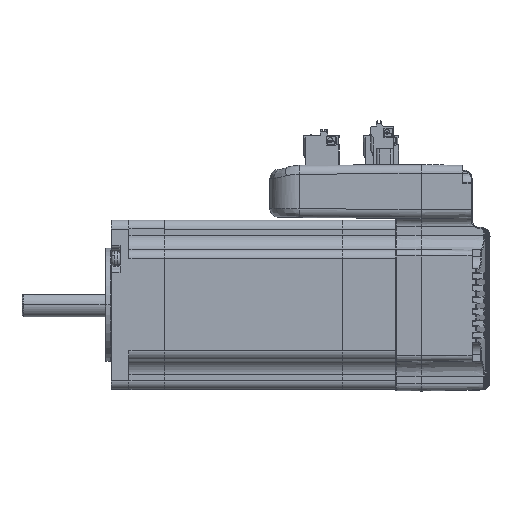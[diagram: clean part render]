
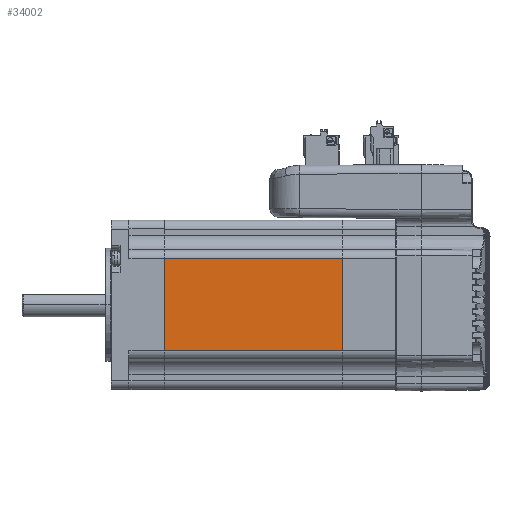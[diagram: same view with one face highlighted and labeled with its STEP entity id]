
A CAD part, left-side view. The second image highlights one B-rep face of the part: STEP entity #34002.
In plain terms, the highlighted planar face has unit normal (-1, 0, 0).
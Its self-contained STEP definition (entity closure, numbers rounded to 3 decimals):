
#5087 = VERTEX_POINT ( 'NONE', #147206 ) ;
#8975 = PLANE ( 'NONE',  #39865 ) ;
#11768 = EDGE_CURVE ( 'NONE', #74639, #103933, #45650, .T. ) ;
#16443 = LINE ( 'NONE', #142165, #73853 ) ;
#20416 = LINE ( 'NONE', #51699, #77710 ) ;
#20529 = CARTESIAN_POINT ( 'NONE',  ( -28.5, -15.5, 60. ) ) ;
#28469 = VECTOR ( 'NONE', #54840, 1000. ) ;
#29067 = CARTESIAN_POINT ( 'NONE',  ( -28.5, -15.5, 0. ) ) ;
#34002 = ADVANCED_FACE ( 'NONE', ( #85191 ), #8975, .T. ) ;
#39865 = AXIS2_PLACEMENT_3D ( 'NONE', #20529, #55056, #135167 ) ;
#45650 = LINE ( 'NONE', #119762, #68919 ) ;
#51699 = CARTESIAN_POINT ( 'NONE',  ( -28.5, 15.5, 60. ) ) ;
#53723 = EDGE_CURVE ( 'NONE', #5087, #109217, #20416, .T. ) ;
#54840 = DIRECTION ( 'NONE',  ( 0., -1., 0. ) ) ;
#55056 = DIRECTION ( 'NONE',  ( -1., 0., 0. ) ) ;
#56833 = ORIENTED_EDGE ( 'NONE', *, *, #106528, .T. ) ;
#58897 = LINE ( 'NONE', #88909, #28469 ) ;
#68787 = CARTESIAN_POINT ( 'NONE',  ( -28.5, 15.5, 60. ) ) ;
#68919 = VECTOR ( 'NONE', #119940, 1000. ) ;
#73563 = DIRECTION ( 'NONE',  ( 0., 1., 0. ) ) ;
#73853 = VECTOR ( 'NONE', #73563, 1000. ) ;
#74639 = VERTEX_POINT ( 'NONE', #29067 ) ;
#77710 = VECTOR ( 'NONE', #97726, 1000. ) ;
#81233 = ORIENTED_EDGE ( 'NONE', *, *, #53723, .F. ) ;
#85191 = FACE_OUTER_BOUND ( 'NONE', #127510, .T. ) ;
#88909 = CARTESIAN_POINT ( 'NONE',  ( -28.5, -15.5, 0. ) ) ;
#97726 = DIRECTION ( 'NONE',  ( 0., 0., 1. ) ) ;
#103709 = EDGE_CURVE ( 'NONE', #103933, #109217, #16443, .T. ) ;
#103933 = VERTEX_POINT ( 'NONE', #145628 ) ;
#106528 = EDGE_CURVE ( 'NONE', #5087, #74639, #58897, .T. ) ;
#109217 = VERTEX_POINT ( 'NONE', #68787 ) ;
#119762 = CARTESIAN_POINT ( 'NONE',  ( -28.5, -15.5, 60. ) ) ;
#119940 = DIRECTION ( 'NONE',  ( 0., 0., 1. ) ) ;
#123949 = ORIENTED_EDGE ( 'NONE', *, *, #11768, .T. ) ;
#127510 = EDGE_LOOP ( 'NONE', ( #142698, #81233, #56833, #123949 ) ) ;
#135167 = DIRECTION ( 'NONE',  ( 0., 0., 1. ) ) ;
#142165 = CARTESIAN_POINT ( 'NONE',  ( -28.5, 25.5, 60. ) ) ;
#142698 = ORIENTED_EDGE ( 'NONE', *, *, #103709, .T. ) ;
#145628 = CARTESIAN_POINT ( 'NONE',  ( -28.5, -15.5, 60. ) ) ;
#147206 = CARTESIAN_POINT ( 'NONE',  ( -28.5, 15.5, 0. ) ) ;
